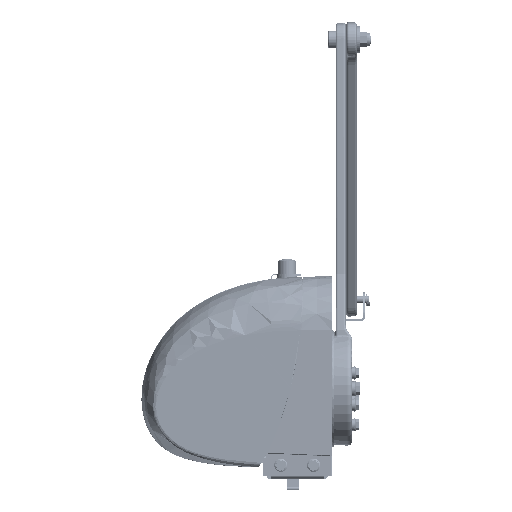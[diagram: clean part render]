
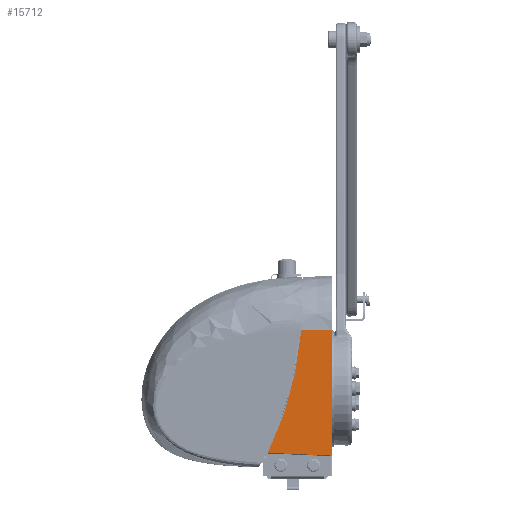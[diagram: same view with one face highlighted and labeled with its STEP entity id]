
A CAD part, left-side view. The second image highlights one B-rep face of the part: STEP entity #15712.
In plain terms, the highlighted planar face has unit normal (-0.999, 0.044, 0).
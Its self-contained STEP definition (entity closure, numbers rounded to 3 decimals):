
#9976 = PLANE ( 'NONE',  #713539 ) ;
#15712 = ADVANCED_FACE ( 'NONE', ( #691109 ), #9976, .T. ) ;
#24510 = DIRECTION ( 'NONE',  ( -0.999, 0.044, 0. ) ) ;
#31538 = CARTESIAN_POINT ( 'NONE',  ( -109.84, 60.919, 99.979 ) ) ;
#42988 = DIRECTION ( 'NONE',  ( -0.044, -0.998, -0.044 ) ) ;
#71459 = VERTEX_POINT ( 'NONE', #546992 ) ;
#80133 = VECTOR ( 'NONE', #210170, 1000. ) ;
#87114 = CARTESIAN_POINT ( 'NONE',  ( -110.174, 53.268, 128.108 ) ) ;
#100577 = VERTEX_POINT ( 'NONE', #684032 ) ;
#109586 = LINE ( 'NONE', #548397, #680630 ) ;
#121331 = EDGE_CURVE ( 'NONE', #651061, #71459, #223542, .T. ) ;
#142685 = CARTESIAN_POINT ( 'NONE',  ( -110.524, 45.252, 170.99 ) ) ;
#179849 = ORIENTED_EDGE ( 'NONE', *, *, #417760, .F. ) ;
#188747 = VERTEX_POINT ( 'NONE', #581954 ) ;
#195946 = CARTESIAN_POINT ( 'NONE',  ( -108.662, 87.904, 32.19 ) ) ;
#196522 = ORIENTED_EDGE ( 'NONE', *, *, #121331, .T. ) ;
#198321 = CARTESIAN_POINT ( 'NONE',  ( -110.665, 42.025, 200. ) ) ;
#210170 = DIRECTION ( 'NONE',  ( 0., 0., -1. ) ) ;
#223542 = LINE ( 'NONE', #594374, #353210 ) ;
#251662 = CARTESIAN_POINT ( 'NONE',  ( -109.206, 75.452, 58.627 ) ) ;
#258065 = EDGE_LOOP ( 'NONE', ( #179849, #196522, #539530, #507974 ) ) ;
#272649 = DIRECTION ( 'NONE',  ( 0.044, 0.999, 0. ) ) ;
#284964 = CARTESIAN_POINT ( 'NONE',  ( -108.662, 87.904, 32.19 ) ) ;
#290388 = CARTESIAN_POINT ( 'NONE',  ( -112.5, 0., 0. ) ) ;
#307237 = CARTESIAN_POINT ( 'NONE',  ( -109.54, 67.794, 79.145 ) ) ;
#353210 = VECTOR ( 'NONE', #42988, 1000. ) ;
#362938 = CARTESIAN_POINT ( 'NONE',  ( -109.695, 64.248, 89.523 ) ) ;
#380675 = EDGE_CURVE ( 'NONE', #188747, #71459, #521533, .T. ) ;
#385515 = EDGE_CURVE ( 'NONE', #188747, #100577, #109586, .T. ) ;
#411353 = DIRECTION ( 'NONE',  ( -0.044, -0.999, 0. ) ) ;
#417760 = EDGE_CURVE ( 'NONE', #651061, #100577, #661041, .T. ) ;
#418394 = CARTESIAN_POINT ( 'NONE',  ( -109.929, 58.88, 106.986 ) ) ;
#430123 = CARTESIAN_POINT ( 'NONE',  ( -112.5, 0., 29. ) ) ;
#471535 = CARTESIAN_POINT ( 'NONE',  ( -108.951, 81.293, 45.251 ) ) ;
#473940 = CARTESIAN_POINT ( 'NONE',  ( -110.308, 50.2, 142.323 ) ) ;
#507974 = ORIENTED_EDGE ( 'NONE', *, *, #385515, .T. ) ;
#521533 = LINE ( 'NONE', #430123, #80133 ) ;
#529733 = CARTESIAN_POINT ( 'NONE',  ( -110.606, 43.373, 185.442 ) ) ;
#539530 = ORIENTED_EDGE ( 'NONE', *, *, #380675, .F. ) ;
#546992 = CARTESIAN_POINT ( 'NONE',  ( -112.5, 0., 28.352 ) ) ;
#548397 = CARTESIAN_POINT ( 'NONE',  ( -112.5, 0., 200. ) ) ;
#581954 = CARTESIAN_POINT ( 'NONE',  ( -112.5, 0., 200. ) ) ;
#594374 = CARTESIAN_POINT ( 'NONE',  ( -112.554, -1.233, 28.298 ) ) ;
#638451 = CARTESIAN_POINT ( 'NONE',  ( -109.486, 69.034, 75.711 ) ) ;
#651061 = VERTEX_POINT ( 'NONE', #284964 ) ;
#661041 = B_SPLINE_CURVE_WITH_KNOTS ( 'NONE', 3,
 ( #195946, #471535, #251662, #638451, #307237, #694028, #362938, #31538, #418394, #87114, #473940, #142685, #529733, #198321 ),
 .UNSPECIFIED., .F., .F.,
 ( 4, 2, 2, 2, 2, 2, 4 ),
 ( 0., 0.044, 0.055, 0.066, 0.088, 0.132, 0.175 ),
 .UNSPECIFIED. ) ;
#680630 = VECTOR ( 'NONE', #272649, 1000. ) ;
#684032 = CARTESIAN_POINT ( 'NONE',  ( -110.665, 42.025, 200. ) ) ;
#691109 = FACE_OUTER_BOUND ( 'NONE', #258065, .T. ) ;
#694028 = CARTESIAN_POINT ( 'NONE',  ( -109.645, 65.402, 86.05 ) ) ;
#713539 = AXIS2_PLACEMENT_3D ( 'NONE', #290388, #24510, #411353 ) ;
